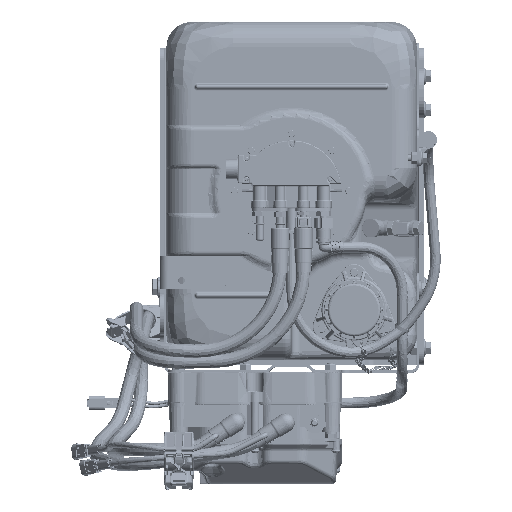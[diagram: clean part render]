
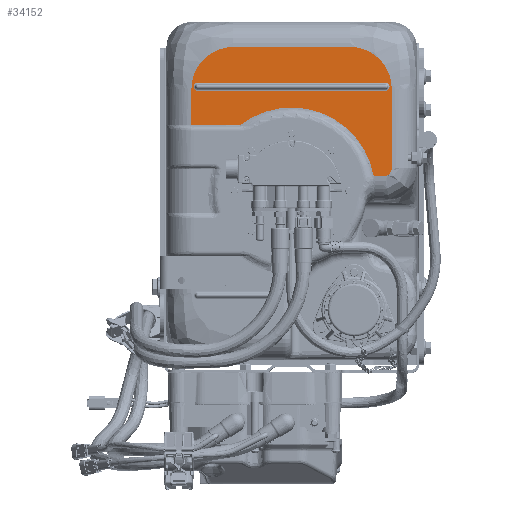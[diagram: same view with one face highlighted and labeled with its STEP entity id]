
A CAD part, top view. The second image highlights one B-rep face of the part: STEP entity #34152.
In plain terms, the highlighted planar face has unit normal (0, 0, 1).
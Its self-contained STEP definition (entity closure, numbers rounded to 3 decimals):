
#32997=CARTESIAN_POINT('Vertex',(70.,-30.,360.)) ;
#33004=CARTESIAN_POINT('Vertex',(-70.,-30.,360.)) ;
#33007=CARTESIAN_POINT('Line Origine',(0.,-30.,360.)) ;
#33831=CARTESIAN_POINT('Control Point',(120.,-80.,360.)) ;
#33832=CARTESIAN_POINT('Control Point',(120.,-78.228,359.999)) ;
#33833=CARTESIAN_POINT('Control Point',(119.922,-76.475,360.001)) ;
#33834=CARTESIAN_POINT('Control Point',(119.769,-74.755,360.)) ;
#33835=CARTESIAN_POINT('Control Point',(119.019,-69.075,360.)) ;
#33836=CARTESIAN_POINT('Control Point',(117.512,-63.724,360.)) ;
#33837=CARTESIAN_POINT('Control Point',(116.129,-60.169,360.)) ;
#33838=CARTESIAN_POINT('Control Point',(112.369,-52.647,360.)) ;
#33839=CARTESIAN_POINT('Control Point',(107.279,-46.224,360.)) ;
#33840=CARTESIAN_POINT('Control Point',(104.099,-43.023,360.)) ;
#33841=CARTESIAN_POINT('Control Point',(98.2,-38.27,360.)) ;
#33842=CARTESIAN_POINT('Control Point',(91.49,-34.695,360.)) ;
#33843=CARTESIAN_POINT('Control Point',(88.626,-33.441,360.)) ;
#33844=CARTESIAN_POINT('Control Point',(83.329,-31.599,360.)) ;
#33845=CARTESIAN_POINT('Control Point',(77.711,-30.502,360.)) ;
#33846=CARTESIAN_POINT('Control Point',(75.183,-30.17,359.999)) ;
#33847=CARTESIAN_POINT('Control Point',(72.611,-30.,360.)) ;
#33848=CARTESIAN_POINT('Control Point',(70.,-30.,360.)) ;
#33849=CARTESIAN_POINT('Vertex',(120.,-80.,360.)) ;
#33930=CARTESIAN_POINT('Line Origine',(120.,-202.5,360.)) ;
#33934=CARTESIAN_POINT('Vertex',(120.,-175.,360.)) ;
#33976=CARTESIAN_POINT('Axis2P3D Location',(110.,-175.,360.)) ;
#33980=CARTESIAN_POINT('Vertex',(110.,-185.,360.)) ;
#34007=CARTESIAN_POINT('Line Origine',(0.,-185.,360.)) ;
#34011=CARTESIAN_POINT('Vertex',(100.023,-185.,360.)) ;
#34033=CARTESIAN_POINT('Axis2P3D Location',(0.,0.,360.)) ;
#34038=CARTESIAN_POINT('Axis2P3D Location',(0.,-202.5,360.)) ;
#34042=CARTESIAN_POINT('Vertex',(-61.95,-124.,360.)) ;
#34044=CARTESIAN_POINT('Vertex',(98.461,-185.025,360.)) ;
#34048=CARTESIAN_POINT('Control Point',(100.023,-185.,360.)) ;
#34049=CARTESIAN_POINT('Control Point',(99.711,-185.,360.)) ;
#34050=CARTESIAN_POINT('Control Point',(99.398,-185.003,360.)) ;
#34051=CARTESIAN_POINT('Control Point',(99.086,-185.008,360.)) ;
#34052=CARTESIAN_POINT('Control Point',(98.774,-185.015,360.)) ;
#34053=CARTESIAN_POINT('Control Point',(98.461,-185.025,360.)) ;
#34055=CARTESIAN_POINT('Axis2P3D Location',(-70.,-80.,360.)) ;
#34059=CARTESIAN_POINT('Vertex',(-120.,-80.,360.)) ;
#34062=CARTESIAN_POINT('Line Origine',(-120.,-102.,360.)) ;
#34066=CARTESIAN_POINT('Vertex',(-120.,-124.,360.)) ;
#34069=CARTESIAN_POINT('Line Origine',(-90.975,-124.,360.)) ;
#34086=CARTESIAN_POINT('Axis2P3D Location',(-112.5,-77.5,360.)) ;
#34090=CARTESIAN_POINT('Vertex',(-112.5,-82.399,360.)) ;
#34092=CARTESIAN_POINT('Vertex',(-117.399,-77.5,360.)) ;
#34095=CARTESIAN_POINT('Axis2P3D Location',(-112.5,-77.5,360.)) ;
#34099=CARTESIAN_POINT('Vertex',(-117.379,-77.062,360.)) ;
#34102=CARTESIAN_POINT('Axis2P3D Location',(-112.5,-77.5,360.)) ;
#34106=CARTESIAN_POINT('Vertex',(-112.5,-72.601,360.)) ;
#34109=CARTESIAN_POINT('Line Origine',(0.,-72.601,360.)) ;
#34113=CARTESIAN_POINT('Vertex',(112.5,-72.601,360.)) ;
#34116=CARTESIAN_POINT('Axis2P3D Location',(112.5,-77.5,360.)) ;
#34120=CARTESIAN_POINT('Vertex',(117.399,-77.5,360.)) ;
#34123=CARTESIAN_POINT('Axis2P3D Location',(112.5,-77.5,360.)) ;
#34127=CARTESIAN_POINT('Vertex',(117.379,-77.938,360.)) ;
#34130=CARTESIAN_POINT('Axis2P3D Location',(112.5,-77.5,360.)) ;
#34134=CARTESIAN_POINT('Vertex',(112.5,-82.399,360.)) ;
#34137=CARTESIAN_POINT('Line Origine',(0.,-82.399,360.)) ;
#33008=DIRECTION('Vector Direction',(1.,0.,0.)) ;
#33931=DIRECTION('Vector Direction',(0.,-1.,0.)) ;
#33977=DIRECTION('Axis2P3D Direction',(0.,0.,1.)) ;
#34008=DIRECTION('Vector Direction',(-1.,0.,0.)) ;
#34034=DIRECTION('Axis2P3D Direction',(-0.,0.,1.)) ;
#34035=DIRECTION('Axis2P3D XDirection',(0.,-1.,0.)) ;
#34039=DIRECTION('Axis2P3D Direction',(-0.,0.,1.)) ;
#34056=DIRECTION('Axis2P3D Direction',(-0.,0.,1.)) ;
#34063=DIRECTION('Vector Direction',(0.,-1.,0.)) ;
#34070=DIRECTION('Vector Direction',(-1.,0.,0.)) ;
#34087=DIRECTION('Axis2P3D Direction',(-0.,0.,1.)) ;
#34096=DIRECTION('Axis2P3D Direction',(-0.,0.,1.)) ;
#34103=DIRECTION('Axis2P3D Direction',(-0.,0.,1.)) ;
#34110=DIRECTION('Vector Direction',(-1.,0.,0.)) ;
#34117=DIRECTION('Axis2P3D Direction',(-0.,0.,1.)) ;
#34124=DIRECTION('Axis2P3D Direction',(-0.,0.,1.)) ;
#34131=DIRECTION('Axis2P3D Direction',(-0.,0.,1.)) ;
#34138=DIRECTION('Vector Direction',(1.,0.,0.)) ;
#33978=AXIS2_PLACEMENT_3D('Circle Axis2P3D',#33976,#33977,$) ;
#34036=AXIS2_PLACEMENT_3D('Plane Axis2P3D',#34033,#34034,#34035) ;
#34040=AXIS2_PLACEMENT_3D('Circle Axis2P3D',#34038,#34039,$) ;
#34057=AXIS2_PLACEMENT_3D('Circle Axis2P3D',#34055,#34056,$) ;
#34088=AXIS2_PLACEMENT_3D('Circle Axis2P3D',#34086,#34087,$) ;
#34097=AXIS2_PLACEMENT_3D('Circle Axis2P3D',#34095,#34096,$) ;
#34104=AXIS2_PLACEMENT_3D('Circle Axis2P3D',#34102,#34103,$) ;
#34118=AXIS2_PLACEMENT_3D('Circle Axis2P3D',#34116,#34117,$) ;
#34125=AXIS2_PLACEMENT_3D('Circle Axis2P3D',#34123,#34124,$) ;
#34132=AXIS2_PLACEMENT_3D('Circle Axis2P3D',#34130,#34131,$) ;
#34075=ORIENTED_EDGE('',*,*,#34046,.T.) ;
#34076=ORIENTED_EDGE('',*,*,#34054,.F.) ;
#34077=ORIENTED_EDGE('',*,*,#34013,.F.) ;
#34078=ORIENTED_EDGE('',*,*,#33982,.F.) ;
#34079=ORIENTED_EDGE('',*,*,#33936,.F.) ;
#34080=ORIENTED_EDGE('',*,*,#33851,.F.) ;
#34081=ORIENTED_EDGE('',*,*,#33011,.F.) ;
#34082=ORIENTED_EDGE('',*,*,#34061,.F.) ;
#34083=ORIENTED_EDGE('',*,*,#34068,.T.) ;
#34084=ORIENTED_EDGE('',*,*,#34073,.T.) ;
#34143=ORIENTED_EDGE('',*,*,#34094,.T.) ;
#34144=ORIENTED_EDGE('',*,*,#34101,.F.) ;
#34145=ORIENTED_EDGE('',*,*,#34108,.F.) ;
#34146=ORIENTED_EDGE('',*,*,#34115,.T.) ;
#34147=ORIENTED_EDGE('',*,*,#34122,.T.) ;
#34148=ORIENTED_EDGE('',*,*,#34129,.F.) ;
#34149=ORIENTED_EDGE('',*,*,#34136,.F.) ;
#34150=ORIENTED_EDGE('',*,*,#34141,.T.) ;
#34151=FACE_BOUND('',#34142,.T.) ;
#33009=VECTOR('Line Direction',#33008,1.) ;
#33932=VECTOR('Line Direction',#33931,1.) ;
#34009=VECTOR('Line Direction',#34008,1.) ;
#34064=VECTOR('Line Direction',#34063,1.) ;
#34071=VECTOR('Line Direction',#34070,1.) ;
#34111=VECTOR('Line Direction',#34110,1.) ;
#34139=VECTOR('Line Direction',#34138,1.) ;
#34152=ADVANCED_FACE('Urea Tank Body ASM|Urea Tank Body|prd01037422|PartBody',(#34085,#34151),#34037,.T.) ;
#33830=B_SPLINE_CURVE_WITH_KNOTS('',5,(#33831,#33832,#33833,#33834,#33835,#33836,#33837,#33838,#33839,#33840,#33841,#33842,#33843,#33844,#33845,#33846,#33847,#33848),.UNSPECIFIED.,.F.,.U.,(6,3,3,3,3,6),(0.,12.695,42.396,79.36,104.766,124.672),.UNSPECIFIED.) ;
#34047=B_SPLINE_CURVE_WITH_KNOTS('',5,(#34048,#34049,#34050,#34051,#34052,#34053),.UNSPECIFIED.,.F.,.U.,(6,6),(0.,2.209),.UNSPECIFIED.) ;
#33979=CIRCLE('generated circle',#33978,10.) ;
#34041=CIRCLE('generated circle',#34040,100.) ;
#34058=CIRCLE('generated circle',#34057,50.) ;
#34089=CIRCLE('generated circle',#34088,4.899) ;
#34098=CIRCLE('generated circle',#34097,4.899) ;
#34105=CIRCLE('generated circle',#34104,4.899) ;
#34119=CIRCLE('generated circle',#34118,4.899) ;
#34126=CIRCLE('generated circle',#34125,4.899) ;
#34133=CIRCLE('generated circle',#34132,4.899) ;
#33011=EDGE_CURVE('',#33005,#32998,#33010,.T.) ;
#33851=EDGE_CURVE('',#32998,#33850,#33830,.F.) ;
#33936=EDGE_CURVE('',#33850,#33935,#33933,.T.) ;
#33982=EDGE_CURVE('',#33935,#33981,#33979,.F.) ;
#34013=EDGE_CURVE('',#33981,#34012,#34010,.T.) ;
#34046=EDGE_CURVE('',#34043,#34045,#34041,.F.) ;
#34054=EDGE_CURVE('',#34012,#34045,#34047,.T.) ;
#34061=EDGE_CURVE('',#34060,#33005,#34058,.F.) ;
#34068=EDGE_CURVE('',#34060,#34067,#34065,.T.) ;
#34073=EDGE_CURVE('',#34067,#34043,#34072,.F.) ;
#34094=EDGE_CURVE('',#34091,#34093,#34089,.F.) ;
#34101=EDGE_CURVE('',#34100,#34093,#34098,.T.) ;
#34108=EDGE_CURVE('',#34107,#34100,#34105,.T.) ;
#34115=EDGE_CURVE('',#34107,#34114,#34112,.F.) ;
#34122=EDGE_CURVE('',#34114,#34121,#34119,.F.) ;
#34129=EDGE_CURVE('',#34128,#34121,#34126,.T.) ;
#34136=EDGE_CURVE('',#34135,#34128,#34133,.T.) ;
#34141=EDGE_CURVE('',#34135,#34091,#34140,.F.) ;
#34074=EDGE_LOOP('',(#34075,#34076,#34077,#34078,#34079,#34080,#34081,#34082,#34083,#34084)) ;
#34142=EDGE_LOOP('',(#34143,#34144,#34145,#34146,#34147,#34148,#34149,#34150)) ;
#34085=FACE_OUTER_BOUND('',#34074,.T.) ;
#33010=LINE('Line',#33007,#33009) ;
#33933=LINE('Line',#33930,#33932) ;
#34010=LINE('Line',#34007,#34009) ;
#34065=LINE('Line',#34062,#34064) ;
#34072=LINE('Line',#34069,#34071) ;
#34112=LINE('Line',#34109,#34111) ;
#34140=LINE('Line',#34137,#34139) ;
#34037=PLANE('',#34036) ;
#32998=VERTEX_POINT('',#32997) ;
#33005=VERTEX_POINT('',#33004) ;
#33850=VERTEX_POINT('',#33849) ;
#33935=VERTEX_POINT('',#33934) ;
#33981=VERTEX_POINT('',#33980) ;
#34012=VERTEX_POINT('',#34011) ;
#34043=VERTEX_POINT('',#34042) ;
#34045=VERTEX_POINT('',#34044) ;
#34060=VERTEX_POINT('',#34059) ;
#34067=VERTEX_POINT('',#34066) ;
#34091=VERTEX_POINT('',#34090) ;
#34093=VERTEX_POINT('',#34092) ;
#34100=VERTEX_POINT('',#34099) ;
#34107=VERTEX_POINT('',#34106) ;
#34114=VERTEX_POINT('',#34113) ;
#34121=VERTEX_POINT('',#34120) ;
#34128=VERTEX_POINT('',#34127) ;
#34135=VERTEX_POINT('',#34134) ;
